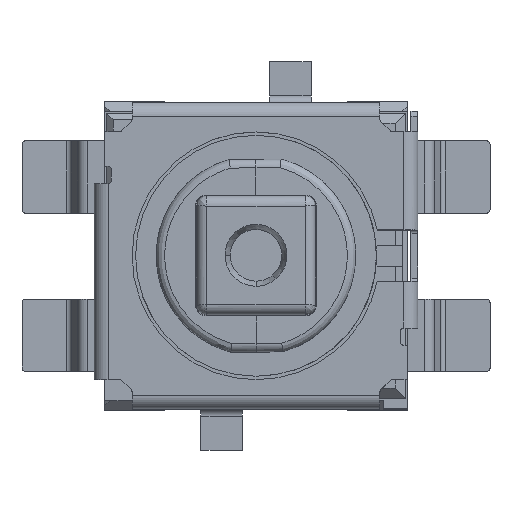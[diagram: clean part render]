
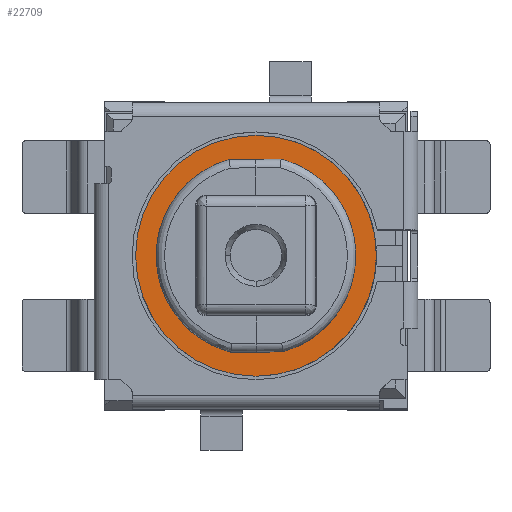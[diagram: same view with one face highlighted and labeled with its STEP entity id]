
A CAD part, top view. The second image highlights one B-rep face of the part: STEP entity #22709.
In plain terms, the highlighted planar face has unit normal (0, 0, 1).
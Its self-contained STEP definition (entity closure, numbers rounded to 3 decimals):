
#2411 = CARTESIAN_POINT ( 'NONE',  ( -0.779, 2.793, 6.9 ) ) ;
#2892 = CIRCLE ( 'NONE', #2952, 2.9 ) ;
#2926 = FACE_BOUND ( 'NONE', #23638, .T. ) ;
#2928 = FACE_OUTER_BOUND ( 'NONE', #22074, .T. ) ;
#2929 = CARTESIAN_POINT ( 'NONE',  ( 0., 3.5, 6.9 ) ) ;
#2930 = DIRECTION ( 'NONE',  ( -1., -0.009, 0. ) ) ;
#2931 = VECTOR ( 'NONE', #2930, 1000. ) ;
#2932 = CARTESIAN_POINT ( 'NONE',  ( 0.779, -2.793, 6.9 ) ) ;
#2933 = LINE ( 'NONE', #2932, #2931 ) ;
#2934 = DIRECTION ( 'NONE',  ( 1., 0., 0. ) ) ;
#2935 = DIRECTION ( 'NONE',  ( 0., 0., -1. ) ) ;
#2936 = CARTESIAN_POINT ( 'NONE',  ( 0., 0., 6.9 ) ) ;
#2937 = AXIS2_PLACEMENT_3D ( 'NONE', #2936, #2935, #2934 ) ;
#2938 = CIRCLE ( 'NONE', #2937, 3.5 ) ;
#2939 = DIRECTION ( 'NONE',  ( 1., 0., 0. ) ) ;
#2940 = DIRECTION ( 'NONE',  ( 0., 0., -1. ) ) ;
#2941 = CARTESIAN_POINT ( 'NONE',  ( 0., 0., 6.9 ) ) ;
#2942 = AXIS2_PLACEMENT_3D ( 'NONE', #2941, #2940, #2939 ) ;
#2943 = CIRCLE ( 'NONE', #2942, 2.9 ) ;
#2944 = DIRECTION ( 'NONE',  ( 1., 0., 0. ) ) ;
#2945 = DIRECTION ( 'NONE',  ( 0., 0., -1. ) ) ;
#2946 = CARTESIAN_POINT ( 'NONE',  ( 0., 0., 6.9 ) ) ;
#2947 = AXIS2_PLACEMENT_3D ( 'NONE', #2946, #2945, #2944 ) ;
#2948 = CIRCLE ( 'NONE', #2947, 3.5 ) ;
#2949 = DIRECTION ( 'NONE',  ( 1., 0., 0. ) ) ;
#2950 = DIRECTION ( 'NONE',  ( 0., 0., -1. ) ) ;
#2951 = CARTESIAN_POINT ( 'NONE',  ( 0., 0., 6.9 ) ) ;
#2952 = AXIS2_PLACEMENT_3D ( 'NONE', #2951, #2950, #2949 ) ;
#2970 = CARTESIAN_POINT ( 'NONE',  ( -0.731, -2.806, 6.9 ) ) ;
#2971 = DIRECTION ( 'NONE',  ( 1., 0., 0. ) ) ;
#2972 = DIRECTION ( 'NONE',  ( 0., 0., 1. ) ) ;
#2973 = CARTESIAN_POINT ( 'NONE',  ( 3.542, -3.542, 6.9 ) ) ;
#2974 = AXIS2_PLACEMENT_3D ( 'NONE', #2973, #2972, #2971 ) ;
#2975 = PLANE ( 'NONE',  #2974 ) ;
#3227 = DIRECTION ( 'NONE',  ( 1., 0.009, 0. ) ) ;
#3228 = VECTOR ( 'NONE', #3227, 1000. ) ;
#3229 = CARTESIAN_POINT ( 'NONE',  ( -0.779, 2.793, 6.9 ) ) ;
#3246 = DIRECTION ( 'NONE',  ( 1., 0., 0. ) ) ;
#3247 = DIRECTION ( 'NONE',  ( 0., 0., 1. ) ) ;
#3248 = AXIS2_PLACEMENT_3D ( 'NONE', #3251, #3247, #3246 ) ;
#3249 = CIRCLE ( 'NONE', #3248, 2.9 ) ;
#3250 = LINE ( 'NONE', #3229, #3228 ) ;
#3251 = CARTESIAN_POINT ( 'NONE',  ( 0., 0., 6.9 ) ) ;
#3257 = CARTESIAN_POINT ( 'NONE',  ( 0.731, 2.806, 6.9 ) ) ;
#3339 = CARTESIAN_POINT ( 'NONE',  ( -1.879, 2.209, 6.9 ) ) ;
#4015 = EDGE_CURVE ( 'NONE', #4016, #4017, #6359, .T. ) ;
#4016 = VERTEX_POINT ( 'NONE', #6409 ) ;
#4017 = VERTEX_POINT ( 'NONE', #6408 ) ;
#4126 = VERTEX_POINT ( 'NONE', #6766 ) ;
#4128 = EDGE_CURVE ( 'NONE', #4126, #4129, #6765, .T. ) ;
#4129 = VERTEX_POINT ( 'NONE', #6760 ) ;
#6359 = CIRCLE ( 'NONE', #6413, 2.9 ) ;
#6408 = CARTESIAN_POINT ( 'NONE',  ( 0.779, -2.793, 6.9 ) ) ;
#6409 = CARTESIAN_POINT ( 'NONE',  ( 2.9, 0., 6.9 ) ) ;
#6410 = DIRECTION ( 'NONE',  ( 1., 0., 0. ) ) ;
#6411 = DIRECTION ( 'NONE',  ( 0., 0., -1. ) ) ;
#6412 = CARTESIAN_POINT ( 'NONE',  ( 0., 0., 6.9 ) ) ;
#6413 = AXIS2_PLACEMENT_3D ( 'NONE', #6412, #6411, #6410 ) ;
#6760 = CARTESIAN_POINT ( 'NONE',  ( 0., -3.5, 6.9 ) ) ;
#6761 = DIRECTION ( 'NONE',  ( 1., 0., 0. ) ) ;
#6762 = DIRECTION ( 'NONE',  ( 0., 0., -1. ) ) ;
#6763 = CARTESIAN_POINT ( 'NONE',  ( 0., 0., 6.9 ) ) ;
#6764 = AXIS2_PLACEMENT_3D ( 'NONE', #6763, #6762, #6761 ) ;
#6765 = CIRCLE ( 'NONE', #6764, 3.5 ) ;
#6766 = CARTESIAN_POINT ( 'NONE',  ( 3.5, 0., 6.9 ) ) ;
#21677 = VERTEX_POINT ( 'NONE', #2411 ) ;
#21689 = ORIENTED_EDGE ( 'NONE', *, *, #24766, .F. ) ;
#21899 = ORIENTED_EDGE ( 'NONE', *, *, #24769, .T. ) ;
#22074 = EDGE_LOOP ( 'NONE', ( #23042, #22197, #22163 ) ) ;
#22115 = EDGE_CURVE ( 'NONE', #23509, #24790, #2892, .T. ) ;
#22150 = ORIENTED_EDGE ( 'NONE', *, *, #22198, .T. ) ;
#22152 = EDGE_CURVE ( 'NONE', #4129, #22276, #2948, .T. ) ;
#22154 = ORIENTED_EDGE ( 'NONE', *, *, #4015, .T. ) ;
#22163 = ORIENTED_EDGE ( 'NONE', *, *, #22196, .F. ) ;
#22176 = EDGE_CURVE ( 'NONE', #24778, #4016, #2943, .T. ) ;
#22196 = EDGE_CURVE ( 'NONE', #22276, #4126, #2938, .T. ) ;
#22197 = ORIENTED_EDGE ( 'NONE', *, *, #4128, .F. ) ;
#22198 = EDGE_CURVE ( 'NONE', #4017, #23509, #2933, .T. ) ;
#22276 = VERTEX_POINT ( 'NONE', #2929 ) ;
#22365 = ORIENTED_EDGE ( 'NONE', *, *, #22176, .T. ) ;
#22647 = ORIENTED_EDGE ( 'NONE', *, *, #22115, .T. ) ;
#22709 = ADVANCED_FACE ( 'NONE', ( #2928, #2926 ), #2975, .T. ) ;
#23042 = ORIENTED_EDGE ( 'NONE', *, *, #22152, .F. ) ;
#23509 = VERTEX_POINT ( 'NONE', #2970 ) ;
#23638 = EDGE_LOOP ( 'NONE', ( #22365, #22154, #22150, #22647, #21689, #21899 ) ) ;
#24766 = EDGE_CURVE ( 'NONE', #21677, #24790, #3249, .T. ) ;
#24769 = EDGE_CURVE ( 'NONE', #21677, #24778, #3250, .T. ) ;
#24778 = VERTEX_POINT ( 'NONE', #3257 ) ;
#24790 = VERTEX_POINT ( 'NONE', #3339 ) ;
